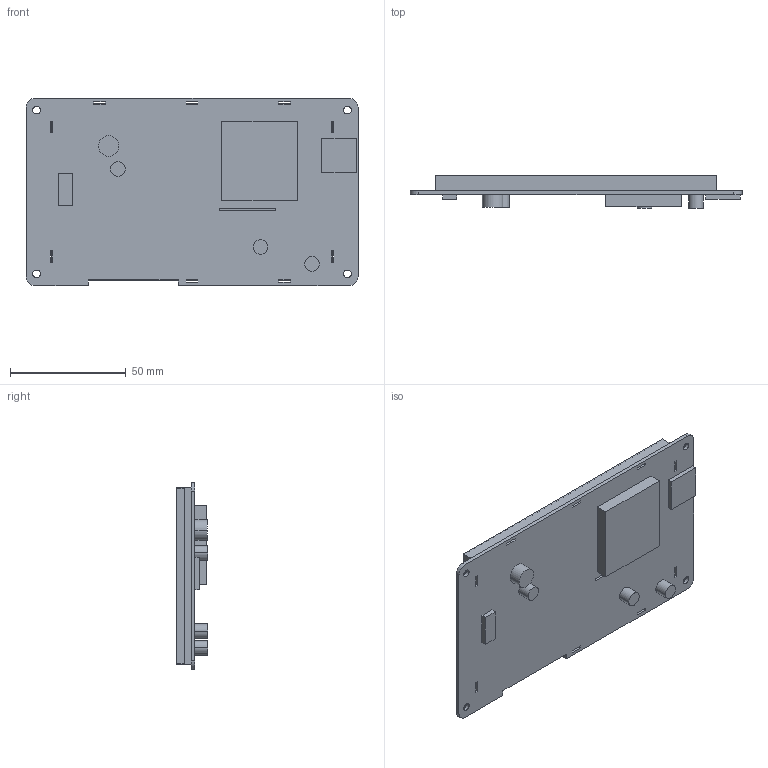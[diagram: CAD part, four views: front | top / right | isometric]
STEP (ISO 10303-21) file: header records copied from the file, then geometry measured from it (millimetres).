
FILE_DESCRIPTION((''),'2;1');
FILE_NAME('DMG80480C050_03W_ASM','2022-12-09T',('Administrator'),(''),'PRO/ENGINEER BY PARAMETRIC TECHNOLOGY CORPORATION, 2014320','PRO/ENGINEER BY PARAMETRIC TECHNOLOGY CORPORATION, 2014320','');
FILE_SCHEMA(('CONFIG_CONTROL_DESIGN','SHAPE_APPEARANCE_LAYERS_GROUPS'));
Length unit declared in the file: millimetre
Products named in the file (4): TK050002; FC50QE40-04; PCB; DMG80480C050_03W_ASM
Assembly tree (3 placements, depth 2):
  DMG80480C050_03W_ASM
    TK050002
    FC50QE40-04
    PCB
Bounding box: 143.51 x 13.8 x 80.9 mm (x, y, z)
Volume: 53024.4 mm3; surface area: 53639.6 mm2
Topology: 3 solids, 3 shells, 146 faces, 378 edges, 252 vertices
Faces by surface type: plane 124, cylinder 22
Entity records: 4786 total; most frequent: CARTESIAN_POINT 783, ORIENTED_EDGE 756, DIRECTION 728, EDGE_CURVE 378, VECTOR 334, LINE 334, VERTEX_POINT 252, AXIS2_PLACEMENT_3D 197
